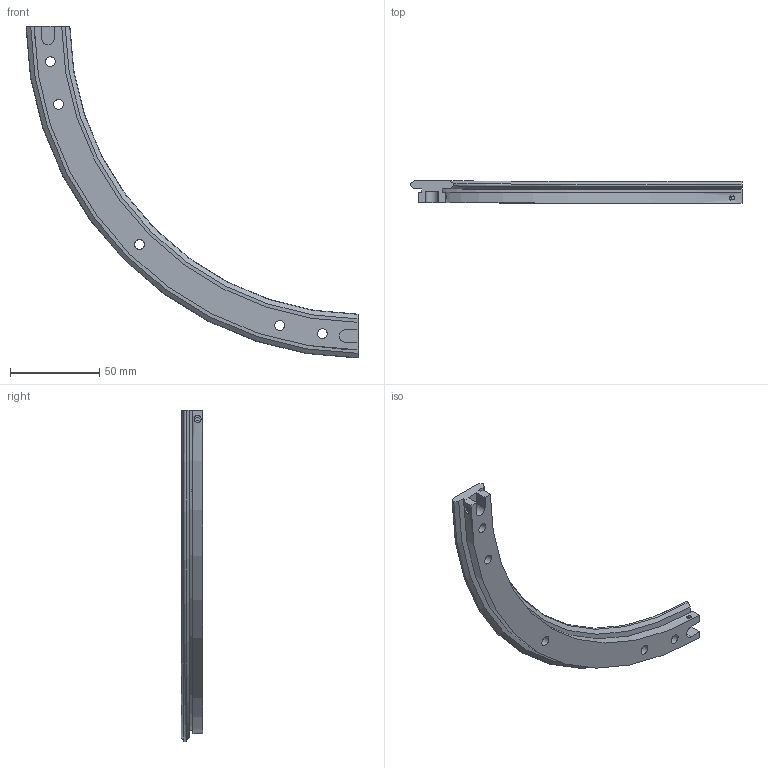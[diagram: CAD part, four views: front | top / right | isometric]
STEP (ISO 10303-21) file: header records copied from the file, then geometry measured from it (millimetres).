
FILE_DESCRIPTION( ( 'STEP AP203' ), '1' );
FILE_NAME( 'p:/temp/worker_29/temp/exporttempdir_2736_408_eg8Pk/format_0/TR25 351 R90.stp', '2021-09-17T07:39:32', ( 'License CC BY-ND 4.0' ), ( 'CADENAS' ), ' ', 'PARTsolutions', ' ' );
FILE_SCHEMA( ( 'CONFIG_CONTROL_DESIGN' ) );
Length unit declared in the file: millimetre
Products named in the file (1): _TR25 351 R90
Bounding box: 186.3 x 12.25 x 186.3 mm (x, y, z)
Volume: 54265.6 mm3; surface area: 22711.5 mm2
Topology: 1 solids, 1 shells, 77 faces, 186 edges, 124 vertices
Faces by surface type: plane 51, cylinder 20, cone 4, torus 2
Full cylindrical faces by diameter (mm): 4 x2, 5.5 x5, 9 x5
Entity records: 2428 total; most frequent: CARTESIAN_POINT 580, DIRECTION 366, ORIENTED_EDGE 348, EDGE_CURVE 174, AXIS2_PLACEMENT_3D 130, VERTEX_POINT 124, EDGE_LOOP 112, LINE 106
